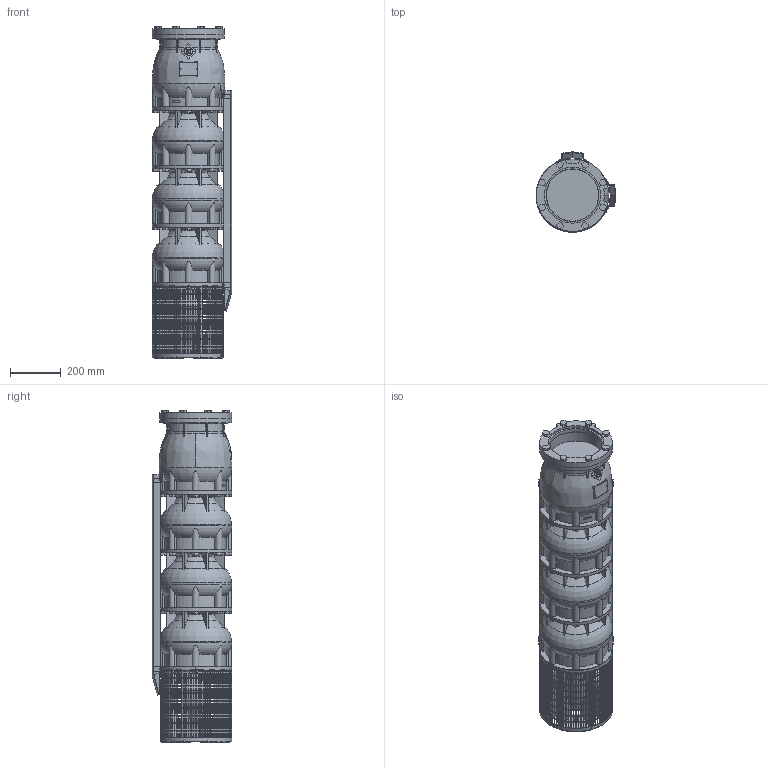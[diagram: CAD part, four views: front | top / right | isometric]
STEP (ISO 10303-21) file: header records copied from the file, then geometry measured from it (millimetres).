
FILE_DESCRIPTION(/* description */ ('-'),/* implementation_level */ '2;1');
FILE_NAME(/* name */ 'VSI454-3-1E1F_WF_M10-50_SME',/* time_stamp */ '2026-01-21T14:37:55+01:00',/* author */ ('Simonelli M.'),/* organization */ ('Franklin Electric Srl'),/* preprocessor_version */ 'ST-DEVELOPER v18.102',/* originating_system */ 'Solid Edge',/* authorisation */ 'Unknown');
FILE_SCHEMA (('AUTOMOTIVE_DESIGN {1 0 10303 214 3 1 1}'));
Products named in the file (12): VSI454-3-1E1F_WF_M10-50_SME; VSI344-454_testata; VSI344-454_supporto; VSI344-454_filtro_A; VSI344-454_filtro_B; VSI344-454_terminale_top_copricavo_medio; VSI344-454_terminale_bottom_copricavo_medio; MID 454-3; VSI454_diffusore; M5X8_UNI7687; VSI184-254_giunto_10×10; VSI344-454_flangia_testata
Assembly tree (27 placements, depth 2):
  VSI454-3-1E1F_WF_M10-50_SME
    VSI344-454_testata
    VSI344-454_supporto
    VSI344-454_filtro_A
    VSI344-454_filtro_B
    VSI344-454_terminale_top_copricavo_medio  x2
    VSI344-454_terminale_bottom_copricavo_medio  x2
    MID 454-3  x2
    VSI454_diffusore  x3
    M5X8_UNI7687  x12
    VSI184-254_giunto_10×10
    VSI344-454_flangia_testata
Bounding box: 314.3 x 314.3 x 1305 mm (x, y, z)
Volume: 52361729.1 mm3; surface area: 3155867.5 mm2
Topology: 92 solids, 92 shells, 4304 faces, 12091 edges, 8029 vertices
Faces by surface type: plane 3467, cylinder 504, torus 217, cone 89, bspline 15, sphere 12
Full cylindrical faces by diameter (mm): 5 x12, 16 x8, 35 x1, 65 x1, 69 x1, 150 x1, 207 x1, 220.5 x1, 284.507 x3, 285 x3
Entity records: 124607 total; most frequent: CARTESIAN_POINT 28076, ORIENTED_EDGE 20264, DIRECTION 19372, EDGE_CURVE 10132, VERTEX_POINT 6757, AXIS2_PLACEMENT_3D 6544, LINE 6284, VECTOR 6284
